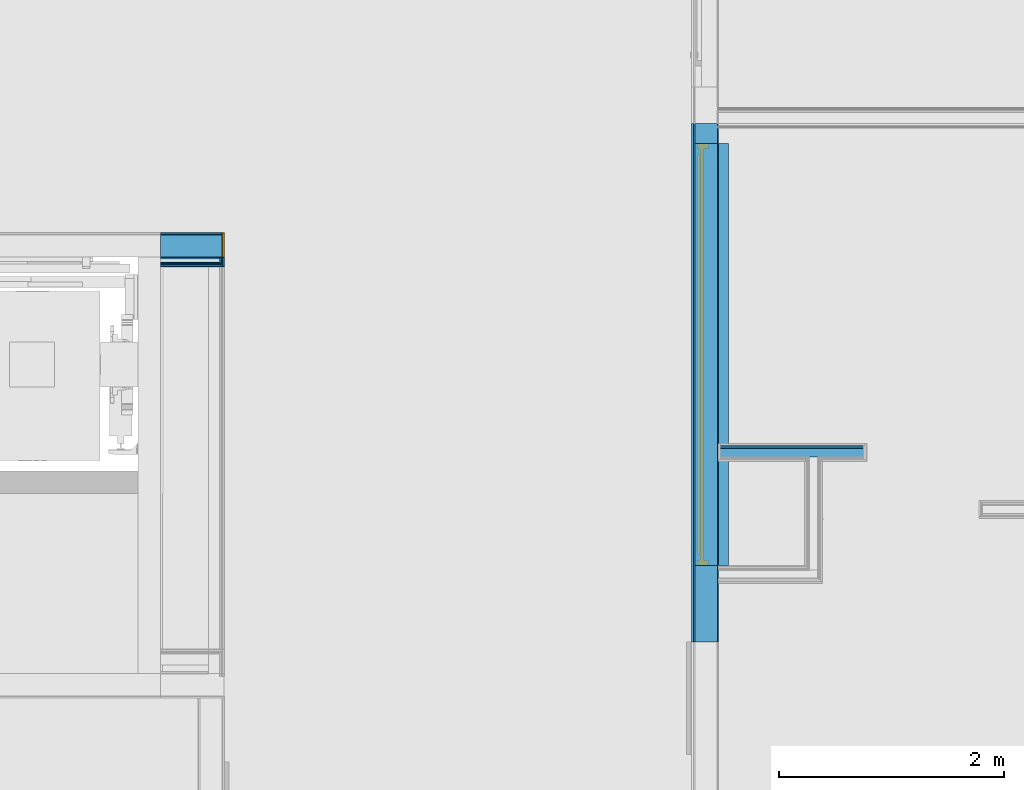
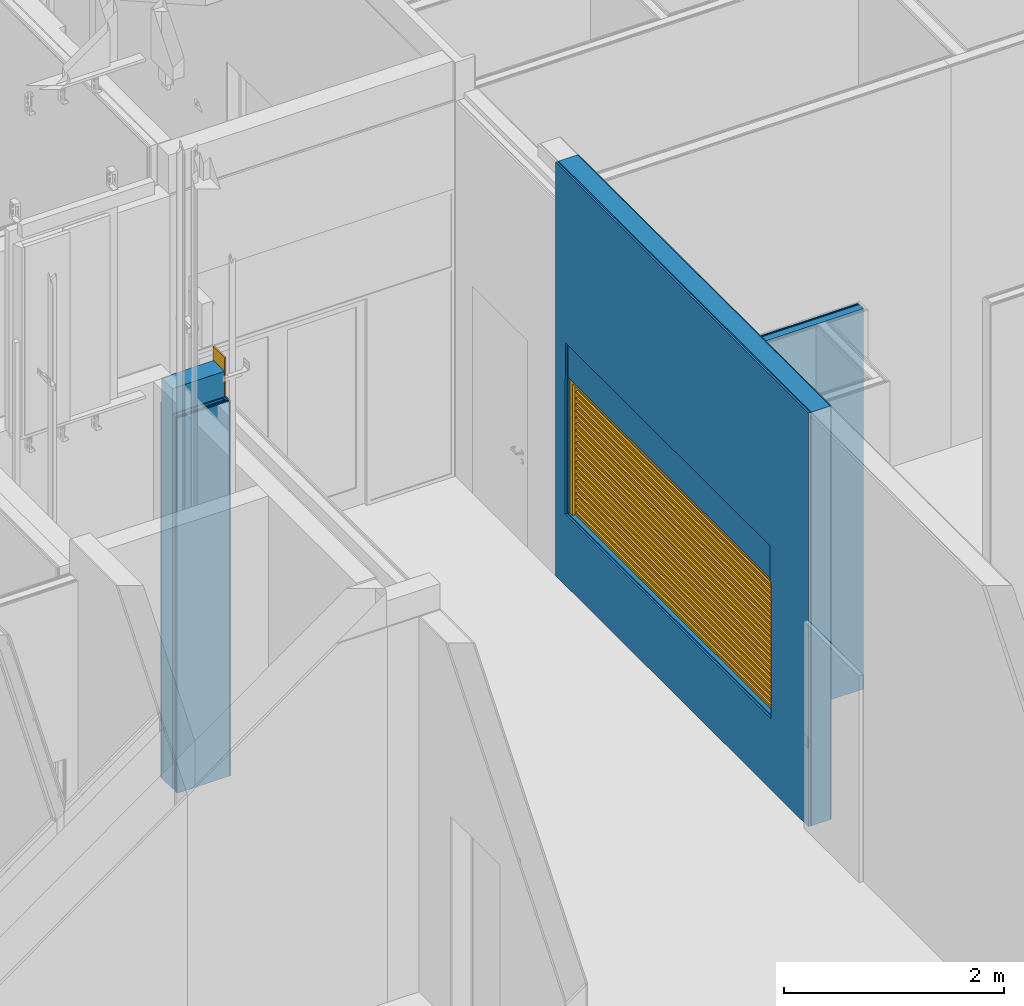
# One storey, part 186 of 260: 16 building element parts, 1 covering, 1 discrete accessory, 1 window, 5 openings, 5 elements without a shape of their own.
"""IFC2X3 building model written with IfcOpenShell, lengths in millimetres."""

from ifc_helpers import new_model, entity, si_unit, converted_unit, derived_unit, money_unit, direction, frame, origin_with_axes, place, context, subcontext, project, spatial, faceted_brep, material, type_object, element, fill, aggregate, save


model = new_model("IFC2X3")

# Units and contexts
model_context = context("Model", 3, precision=0.01, world=origin_with_axes(), true_north=direction((0.0, 1.0)))
body_context = subcontext(model_context, "Body", "Model", "MODEL_VIEW")
ifc_project = project(units=[si_unit("LENGTHUNIT", "METRE", prefix="MILLI"), si_unit("AREAUNIT", "SQUARE_METRE"), si_unit("VOLUMEUNIT", "CUBIC_METRE"), converted_unit("PLANEANGLEUNIT", "DEGREE", entity("IfcPlaneAngleMeasure", 0.0174532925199), si_unit("PLANEANGLEUNIT", "RADIAN"), dimensions=[0, 0, 0, 0, 0, 0, 0]), money_unit("EUR"), converted_unit("TIMEUNIT", "Year", entity("IfcTimeMeasure", 31556926.0), si_unit("TIMEUNIT", "SECOND"), dimensions=[0, 0, 1, 0, 0, 0, 0]), si_unit("MASSUNIT", "GRAM", prefix="KILO"), si_unit("THERMODYNAMICTEMPERATUREUNIT", "DEGREE_CELSIUS"), si_unit("LUMINOUSINTENSITYUNIT", "LUMEN"), si_unit("ENERGYUNIT", "JOULE", prefix="MEGA"), derived_unit("THERMALCONDUCTANCEUNIT", [(si_unit("POWERUNIT", "WATT"), 1), (si_unit("LENGTHUNIT", "METRE"), -1), (si_unit("THERMODYNAMICTEMPERATUREUNIT", "KELVIN"), -1)]), derived_unit("SPECIFICHEATCAPACITYUNIT", [(si_unit("ENERGYUNIT", "JOULE"), 1), (si_unit("MASSUNIT", "GRAM", prefix="KILO"), -1), (si_unit("THERMODYNAMICTEMPERATUREUNIT", "KELVIN"), -1)]), derived_unit("MASSDENSITYUNIT", [(si_unit("MASSUNIT", "GRAM", prefix="KILO"), 1), (si_unit("VOLUMEUNIT", "CUBIC_METRE"), -1)])], contexts=[model_context])

# Site, building, storey
site_placement = place(None, origin_with_axes())
site = spatial("IfcSite", under=ifc_project, at=site_placement, Name="Kolde pst 67a", CompositionType="ELEMENT")
building_placement = place(site_placement, origin_with_axes())
building = spatial("IfcBuilding", under=site, at=building_placement, Name="Riigigümnaasium", CompositionType="ELEMENT")
storey_placement = place(building_placement, origin_with_axes())
storey = spatial("IfcBuildingStorey", under=building, at=storey_placement, Name="1. korrus", CompositionType="ELEMENT", Elevation=0.0)

# Window
window_style = type_object("IfcWindowStyle", Name="Vertical Sliding Garage Door 25", ConstructionType="NOTDEFINED", OperationType="NOTDEFINED", ParameterTakesPrecedence=False, Sizeable=False)
wall_5_placement = place(storey_placement, frame((52829.9941222, 50755.0003787, 0.0), z_axis=(0.0, 0.0, 1.0), x_axis=(0.0, -1.0, 0.0)))
opening_5_placement = place(wall_5_placement, frame((2049.89598851, 0.0, 790.0), z_axis=(0.0, 0.0, 1.0), x_axis=(1.0, 0.0, 0.0)))
window_placement = place(opening_5_placement, frame((1875.0, 0.0, 0.0), z_axis=(0.0, 0.0, 1.0), x_axis=(-1.0, 0.0, 0.0)))
window = element("IfcWindow", 1, at=window_placement, inside=storey, type_object=window_style, Name="Nõudetagastus ava kardin", ObjectType="WINDOW", OverallHeight=1510.0, OverallWidth=3750.0, context=body_context, shape_type="Brep", body=[
    faceted_brep([(3750.0, 190.0, 0.0), (3750.0, 90.0, 0.0), (3700.0, 90.0, 0.0), (3700.0, 190.0, 0.0), (3750.0, 190.0, 1460.0), (3750.0, 90.0, 1460.0), (3700.0, 90.0, 1460.0), (3700.0, 190.0, 1460.0)], [[[0, 1, 2, 3]], [[4, 5, 1, 0]], [[1, 5, 6, 2]], [[3, 2, 6, 7]], [[0, 3, 7, 4]], [[7, 6, 5, 4]]]),
    faceted_brep([(0.0, 190.0, 0.0), (0.0, 90.0, 0.0), (0.0, 90.0, 1460.0), (0.0, 190.0, 1460.0), (50.0, 190.0, 0.0), (50.0, 90.0, 0.0), (50.0, 90.0, 1460.0), (50.0, 190.0, 1460.0)], [[[0, 1, 2, 3]], [[4, 5, 1, 0]], [[1, 5, 6, 2]], [[3, 2, 6, 7]], [[0, 3, 7, 4]], [[7, 6, 5, 4]]]),
    faceted_brep([(3750.0, 190.0, 1510.0), (3750.0, 90.0, 1510.0), (3750.0, 90.0, 1460.0), (3750.0, 190.0, 1460.0), (0.0, 190.0, 1510.0), (0.0, 90.0, 1510.0), (0.0, 90.0, 1460.0), (50.0, 90.0, 1460.0), (3700.0, 90.0, 1460.0), (3700.0, 190.0, 1460.0), (50.0, 190.0, 1460.0), (0.0, 190.0, 1460.0)], [[[0, 1, 2, 3]], [[4, 5, 1, 0]], [[1, 5, 6, 7, 8, 2]], [[3, 2, 8, 9]], [[0, 3, 9, 10, 11, 4]], [[11, 6, 5, 4]], [[10, 7, 6, 11]], [[9, 8, 7, 10]]]),
    faceted_brep([(50.0, 134.5, 0.0), (50.0, 164.5, 0.0), (3700.0, 164.5, 0.0), (3700.0, 134.5, 0.0), (50.0, 134.5, 1460.0), (50.0, 164.5, 1460.0), (3700.0, 164.5, 1460.0), (3700.0, 134.5, 1460.0)], [[[0, 1, 2, 3]], [[4, 5, 1, 0]], [[1, 5, 6, 2]], [[3, 2, 6, 7]], [[0, 3, 7, 4]], [[7, 6, 5, 4]]]),
    faceted_brep([(3650.0, 164.5, 50.0), (3650.0, 164.5, 70.5), (100.0, 164.5, 70.5), (100.0, 164.5, 50.0), (3650.0, 184.5, 50.0), (3650.0, 184.5, 70.5), (100.0, 184.5, 70.5), (100.0, 184.5, 50.0)], [[[0, 1, 2, 3]], [[0, 4, 5, 1]], [[1, 5, 6, 2]], [[2, 6, 7, 3]], [[3, 7, 4, 0]], [[7, 6, 5, 4]]]),
    faceted_brep([(3650.0, 164.5, 120.5), (3650.0, 164.5, 141.0), (100.0, 164.5, 141.0), (100.0, 164.5, 120.5), (3650.0, 184.5, 120.5), (3650.0, 184.5, 141.0), (100.0, 184.5, 141.0), (100.0, 184.5, 120.5)], [[[0, 1, 2, 3]], [[0, 4, 5, 1]], [[1, 5, 6, 2]], [[2, 6, 7, 3]], [[3, 7, 4, 0]], [[7, 6, 5, 4]]]),
    faceted_brep([(3650.0, 164.5, 191.0), (3650.0, 164.5, 211.5), (100.0, 164.5, 211.5), (100.0, 164.5, 191.0), (3650.0, 184.5, 191.0), (3650.0, 184.5, 211.5), (100.0, 184.5, 211.5), (100.0, 184.5, 191.0)], [[[0, 1, 2, 3]], [[0, 4, 5, 1]], [[1, 5, 6, 2]], [[2, 6, 7, 3]], [[3, 7, 4, 0]], [[7, 6, 5, 4]]]),
    faceted_brep([(3650.0, 164.5, 261.5), (3650.0, 164.5, 282.0), (100.0, 164.5, 282.0), (100.0, 164.5, 261.5), (3650.0, 184.5, 261.5), (3650.0, 184.5, 282.0), (100.0, 184.5, 282.0), (100.0, 184.5, 261.5)], [[[0, 1, 2, 3]], [[0, 4, 5, 1]], [[1, 5, 6, 2]], [[2, 6, 7, 3]], [[3, 7, 4, 0]], [[7, 6, 5, 4]]]),
    faceted_brep([(3650.0, 164.5, 332.0), (3650.0, 164.5, 352.5), (100.0, 164.5, 352.5), (100.0, 164.5, 332.0), (3650.0, 184.5, 332.0), (3650.0, 184.5, 352.5), (100.0, 184.5, 352.5), (100.0, 184.5, 332.0)], [[[0, 1, 2, 3]], [[0, 4, 5, 1]], [[1, 5, 6, 2]], [[2, 6, 7, 3]], [[3, 7, 4, 0]], [[7, 6, 5, 4]]]),
    faceted_brep([(3650.0, 164.5, 402.5), (3650.0, 164.5, 423.0), (100.0, 164.5, 423.0), (100.0, 164.5, 402.5), (3650.0, 184.5, 402.5), (3650.0, 184.5, 423.0), (100.0, 184.5, 423.0), (100.0, 184.5, 402.5)], [[[0, 1, 2, 3]], [[0, 4, 5, 1]], [[1, 5, 6, 2]], [[2, 6, 7, 3]], [[3, 7, 4, 0]], [[7, 6, 5, 4]]]),
    faceted_brep([(3650.0, 164.5, 473.0), (3650.0, 164.5, 493.5), (100.0, 164.5, 493.5), (100.0, 164.5, 473.0), (3650.0, 184.5, 473.0), (3650.0, 184.5, 493.5), (100.0, 184.5, 493.5), (100.0, 184.5, 473.0)], [[[0, 1, 2, 3]], [[0, 4, 5, 1]], [[1, 5, 6, 2]], [[2, 6, 7, 3]], [[3, 7, 4, 0]], [[7, 6, 5, 4]]]),
    faceted_brep([(3650.0, 164.5, 543.5), (3650.0, 164.5, 564.0), (100.0, 164.5, 564.0), (100.0, 164.5, 543.5), (3650.0, 184.5, 543.5), (3650.0, 184.5, 564.0), (100.0, 184.5, 564.0), (100.0, 184.5, 543.5)], [[[0, 1, 2, 3]], [[0, 4, 5, 1]], [[1, 5, 6, 2]], [[2, 6, 7, 3]], [[3, 7, 4, 0]], [[7, 6, 5, 4]]]),
    faceted_brep([(3650.0, 164.5, 614.0), (3650.0, 164.5, 634.5), (100.0, 164.5, 634.5), (100.0, 164.5, 614.0), (3650.0, 184.5, 614.0), (3650.0, 184.5, 634.5), (100.0, 184.5, 634.5), (100.0, 184.5, 614.0)], [[[0, 1, 2, 3]], [[0, 4, 5, 1]], [[1, 5, 6, 2]], [[2, 6, 7, 3]], [[3, 7, 4, 0]], [[7, 6, 5, 4]]]),
    faceted_brep([(3650.0, 164.5, 684.5), (3650.0, 164.5, 705.0), (100.0, 164.5, 705.0), (100.0, 164.5, 684.5), (3650.0, 184.5, 684.5), (3650.0, 184.5, 705.0), (100.0, 184.5, 705.0), (100.0, 184.5, 684.5)], [[[0, 1, 2, 3]], [[0, 4, 5, 1]], [[1, 5, 6, 2]], [[2, 6, 7, 3]], [[3, 7, 4, 0]], [[7, 6, 5, 4]]]),
    faceted_brep([(3650.0, 164.5, 755.0), (3650.0, 164.5, 775.5), (100.0, 164.5, 775.5), (100.0, 164.5, 755.0), (3650.0, 184.5, 755.0), (3650.0, 184.5, 775.5), (100.0, 184.5, 775.5), (100.0, 184.5, 755.0)], [[[0, 1, 2, 3]], [[0, 4, 5, 1]], [[1, 5, 6, 2]], [[2, 6, 7, 3]], [[3, 7, 4, 0]], [[7, 6, 5, 4]]]),
    faceted_brep([(3650.0, 164.5, 825.5), (3650.0, 164.5, 846.0), (100.0, 164.5, 846.0), (100.0, 164.5, 825.5), (3650.0, 184.5, 825.5), (3650.0, 184.5, 846.0), (100.0, 184.5, 846.0), (100.0, 184.5, 825.5)], [[[0, 1, 2, 3]], [[0, 4, 5, 1]], [[1, 5, 6, 2]], [[2, 6, 7, 3]], [[3, 7, 4, 0]], [[7, 6, 5, 4]]]),
    faceted_brep([(3650.0, 164.5, 896.0), (3650.0, 164.5, 916.5), (100.0, 164.5, 916.5), (100.0, 164.5, 896.0), (3650.0, 184.5, 896.0), (3650.0, 184.5, 916.5), (100.0, 184.5, 916.5), (100.0, 184.5, 896.0)], [[[0, 1, 2, 3]], [[0, 4, 5, 1]], [[1, 5, 6, 2]], [[2, 6, 7, 3]], [[3, 7, 4, 0]], [[7, 6, 5, 4]]]),
    faceted_brep([(3650.0, 164.5, 966.5), (3650.0, 164.5, 987.0), (100.0, 164.5, 987.0), (100.0, 164.5, 966.5), (3650.0, 184.5, 966.5), (3650.0, 184.5, 987.0), (100.0, 184.5, 987.0), (100.0, 184.5, 966.5)], [[[0, 1, 2, 3]], [[0, 4, 5, 1]], [[1, 5, 6, 2]], [[2, 6, 7, 3]], [[3, 7, 4, 0]], [[7, 6, 5, 4]]]),
    faceted_brep([(3650.0, 164.5, 1037.0), (3650.0, 164.5, 1057.5), (100.0, 164.5, 1057.5), (100.0, 164.5, 1037.0), (3650.0, 184.5, 1037.0), (3650.0, 184.5, 1057.5), (100.0, 184.5, 1057.5), (100.0, 184.5, 1037.0)], [[[0, 1, 2, 3]], [[0, 4, 5, 1]], [[1, 5, 6, 2]], [[2, 6, 7, 3]], [[3, 7, 4, 0]], [[7, 6, 5, 4]]]),
    faceted_brep([(3650.0, 164.5, 1107.5), (3650.0, 164.5, 1128.0), (100.0, 164.5, 1128.0), (100.0, 164.5, 1107.5), (3650.0, 184.5, 1107.5), (3650.0, 184.5, 1128.0), (100.0, 184.5, 1128.0), (100.0, 184.5, 1107.5)], [[[0, 1, 2, 3]], [[0, 4, 5, 1]], [[1, 5, 6, 2]], [[2, 6, 7, 3]], [[3, 7, 4, 0]], [[7, 6, 5, 4]]]),
    faceted_brep([(3650.0, 164.5, 1178.0), (3650.0, 164.5, 1198.5), (100.0, 164.5, 1198.5), (100.0, 164.5, 1178.0), (3650.0, 184.5, 1178.0), (3650.0, 184.5, 1198.5), (100.0, 184.5, 1198.5), (100.0, 184.5, 1178.0)], [[[0, 1, 2, 3]], [[0, 4, 5, 1]], [[1, 5, 6, 2]], [[2, 6, 7, 3]], [[3, 7, 4, 0]], [[7, 6, 5, 4]]]),
    faceted_brep([(3650.0, 164.5, 1248.5), (3650.0, 164.5, 1269.0), (100.0, 164.5, 1269.0), (100.0, 164.5, 1248.5), (3650.0, 184.5, 1248.5), (3650.0, 184.5, 1269.0), (100.0, 184.5, 1269.0), (100.0, 184.5, 1248.5)], [[[0, 1, 2, 3]], [[0, 4, 5, 1]], [[1, 5, 6, 2]], [[2, 6, 7, 3]], [[3, 7, 4, 0]], [[7, 6, 5, 4]]]),
    faceted_brep([(3650.0, 164.5, 1319.0), (3650.0, 164.5, 1339.5), (100.0, 164.5, 1339.5), (100.0, 164.5, 1319.0), (3650.0, 184.5, 1319.0), (3650.0, 184.5, 1339.5), (100.0, 184.5, 1339.5), (100.0, 184.5, 1319.0)], [[[0, 1, 2, 3]], [[0, 4, 5, 1]], [[1, 5, 6, 2]], [[2, 6, 7, 3]], [[3, 7, 4, 0]], [[7, 6, 5, 4]]]),
    faceted_brep([(3650.0, 164.5, 1389.5), (3650.0, 164.5, 1410.0), (100.0, 164.5, 1410.0), (100.0, 164.5, 1389.5), (3650.0, 184.5, 1389.5), (3650.0, 184.5, 1410.0), (100.0, 184.5, 1410.0), (100.0, 184.5, 1389.5)], [[[0, 1, 2, 3]], [[0, 4, 5, 1]], [[1, 5, 6, 2]], [[2, 6, 7, 3]], [[3, 7, 4, 0]], [[7, 6, 5, 4]]]),
])

# Covering
ifc_material_1 = material(Name="_VIIMISTLUSKIHT - viimistlus vastavalt SA osale")
covering_type = type_object("IfcCoveringType", Name="Returned End 25", PredefinedType="NOTDEFINED")
wall_1_placement = place(storey_placement, frame((47874.9854607, 49769.9999599, 0.0), z_axis=(0.0, 0.0, 1.0), x_axis=(1.0, 0.0, 0.0)))
opening_1_placement = place(wall_1_placement, frame((565.0, 0.0, 0.0), z_axis=(0.0, 0.0, 1.0), x_axis=(1.0, 0.0, 0.0)))
covering_placement = place(opening_1_placement, frame((7.5, 0.0, 0.0), z_axis=(0.0, 0.0, 1.0), x_axis=(-1.0, 0.0, 0.0)))
covering = element("IfcCovering", 2, at=covering_placement, inside=storey, type_object=covering_type, material=ifc_material_1, Name="Pale", PredefinedType="NOTDEFINED", context=body_context, shape_type="Brep", body=[
    faceted_brep([(7.5, -15.0, 0.0), (22.5, -15.0, 0.0), (22.5, -15.0, 4600.0), (7.5, -15.0, 4600.0), (7.5, 200.0, 0.0), (22.5, 200.0, 0.0), (22.5, 200.0, 4600.0), (7.5, 200.0, 4600.0)], [[[0, 1, 2, 3]], [[4, 5, 1, 0]], [[5, 6, 2, 1]], [[6, 7, 3, 2]], [[7, 4, 0, 3]], [[4, 7, 6, 5]]]),
])

# Discrete accessory
ifc_material_2 = material(Name="_METALL - kuumtsingitud teras")
discrete_accessory_type = type_object("IfcDiscreteAccessoryType", Name="_METALL - kuumtsingitud teras 300 x 400")
discrete_accessory_placement = place(storey_placement, frame((52619.9940909, 50580.4912285, 2300.0), z_axis=(0.0, 0.0, 1.0), x_axis=(-1.0, 0.0, 0.0)))
element("IfcDiscreteAccessory", 3, at=discrete_accessory_placement, inside=storey, type_object=discrete_accessory_type, material=ifc_material_2, Name="Turvakardina korpus Vastavalt Sa osale", context=body_context, shape_type="Brep", body=[
    faceted_brep([(0.0, 0.0, 400.0), (0.0, 3750.0, 400.0), (-300.009731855, 3750.0, 400.0), (-300.009731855, 0.0, 400.0), (0.0, 0.0, 0.0), (0.0, 3750.0, 0.0), (-300.009731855, 3750.0, 0.0), (-300.009731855, 0.0, 0.0)], [[[0, 1, 2, 3]], [[4, 5, 1, 0]], [[2, 1, 5, 6]], [[3, 2, 6, 7]], [[4, 0, 3, 7]], [[7, 6, 5, 4]]]),
])

# Wall, opening
wall_type_1 = type_object("IfcWallType", Name="SS-RB-20/2_+2 plaat 230", PredefinedType="NOTDEFINED")
wall_1 = element("IfcWall", 4, at=wall_1_placement, inside=storey, type_object=wall_type_1, Name="Sisesein")
opening_1 = element("IfcOpeningElement", 5, at=opening_1_placement, cuts=wall_1, Name="Pale", context=body_context, shape_type="Brep", body=[
    faceted_brep([(-15.0, -200.0, 0.0), (0.0, -200.0, 0.0), (0.0, -200.0, 4600.0), (-15.0, -200.0, 4600.0), (-15.0, 15.0, 0.0), (0.0, 15.0, 0.0), (0.0, 15.0, 4600.0), (-15.0, 15.0, 4600.0)], [[[0, 1, 2, 3]], [[0, 4, 5, 1]], [[1, 5, 6, 2]], [[3, 2, 6, 7]], [[4, 0, 3, 7]], [[5, 4, 7, 6]]]),
])

fill(opening_1, covering)

# Building element part
building_element_part_1_placement = place(wall_1_placement, origin_with_axes())
building_element_part_1 = element("IfcBuildingElementPart", 6, at=building_element_part_1_placement, material=ifc_material_1, Name="_VIIMISTLUSKIHT - viimistlus vastavalt SA osale", context=body_context, shape_type="Brep", body=[
    faceted_brep([(550.0, 0.0, 4170.0), (550.0, 15.0, 4170.0), (0.0, 15.0, 4170.0), (0.0, 0.0, 4170.0), (550.0, 15.0, 0.0), (550.0, 0.0, 0.0), (0.0, 15.0, 0.0), (0.0, 0.0, 0.0)], [[[0, 1, 2, 3]], [[4, 1, 0, 5]], [[1, 4, 6, 2]], [[2, 6, 7, 3]], [[5, 0, 3, 7]], [[4, 5, 7, 6]]]),
])

ifc_material_3 = material(Name="_KANDETARIND - monteeritav raudbetoon vastavalt EK osale")
building_element_part_2_placement = place(wall_1_placement, origin_with_axes())
building_element_part_2 = element("IfcBuildingElementPart", 7, at=building_element_part_2_placement, material=ifc_material_3, Name="_KANDETARIND - monteeritav raudbetoon vastavalt EK osale", context=body_context, shape_type="Brep", body=[
    faceted_brep([(550.0, -200.0, 4450.0), (550.0, 0.0, 4450.0), (0.0, 0.0, 4450.0), (0.0, -200.0, 4450.0), (550.0, 0.0, 0.0), (550.0, -200.0, 0.0), (0.0, 0.0, 0.0), (0.0, -200.0, 0.0)], [[[0, 1, 2, 3]], [[4, 1, 0, 5]], [[1, 4, 6, 2]], [[2, 6, 7, 3]], [[5, 0, 3, 7]], [[4, 5, 7, 6]]]),
])

building_element_part_3_placement = place(wall_1_placement, origin_with_axes())
building_element_part_3 = element("IfcBuildingElementPart", 8, at=building_element_part_3_placement, material=ifc_material_1, Name="_VIIMISTLUSKIHT - viimistlus vastavalt SA osale", context=body_context, shape_type="Brep", body=[
    faceted_brep([(0.0, -200.0, 4170.0), (565.0, -200.0, 4170.0), (565.0, -200.0, 0.0), (0.0, -200.0, 0.0), (565.0, -215.0, 4170.0), (0.0, -215.0, 4170.0), (565.0, -215.0, 0.0), (0.0, -215.0, 0.0)], [[[0, 1, 2, 3]], [[4, 1, 0, 5]], [[1, 4, 6, 2]], [[3, 2, 6, 7]], [[5, 0, 3, 7]], [[4, 5, 7, 6]]]),
])

aggregate(wall_1, [building_element_part_1, building_element_part_2, building_element_part_3])

# Wall, openings, building element parts
wall_type_2 = type_object("IfcWallType", Name="SS-MK-7,5/1_plaaditud 155", PredefinedType="NOTDEFINED")
wall_2_placement = place(storey_placement, frame((52829.9941222, 47910.1043901, 0.0), z_axis=(0.0, 0.0, 1.0), x_axis=(1.0, 0.0, 0.0)))
wall_2 = element("IfcWall", 9, at=wall_2_placement, inside=storey, type_object=wall_type_2, Name="Sisesein")
opening_2_placement = place(wall_2_placement, origin_with_axes())
element("IfcOpeningElement", 10, at=opening_2_placement, cuts=wall_2, Name="Pale", context=body_context, shape_type="Brep", body=[
    faceted_brep([(15.0, 0.0, 0.0), (0.0, 0.0, 0.0), (0.0, 0.0, 4230.00000998), (15.0, 0.0, 4230.00000998), (15.0, -140.0, 0.0), (0.0, -140.0, 0.0), (0.0, -140.0, 4230.00000998), (15.0, -140.0, 4230.00000998)], [[[0, 1, 2, 3]], [[0, 4, 5, 1]], [[1, 5, 6, 2]], [[3, 2, 6, 7]], [[4, 0, 3, 7]], [[5, 4, 7, 6]]]),
])
opening_3_placement = place(wall_2_placement, frame((1315.65217575, 0.0, 0.0), z_axis=(0.0, 0.0, 1.0), x_axis=(1.0, 0.0, 0.0)))
element("IfcOpeningElement", 11, at=opening_3_placement, cuts=wall_2, Name="Pale", context=body_context, shape_type="Brep", body=[
    faceted_brep([(-15.0, -140.0, 0.0), (0.0, -140.0, 0.0), (0.0, -140.0, 4230.00000998), (-15.0, -140.0, 4230.00000998), (-15.0, 0.0, 0.0), (0.0, 0.0, 0.0), (0.0, 0.0, 4230.00000998), (-15.0, 0.0, 4230.00000998)], [[[0, 1, 2, 3]], [[0, 4, 5, 1]], [[1, 5, 6, 2]], [[3, 2, 6, 7]], [[4, 0, 3, 7]], [[5, 4, 7, 6]]]),
    faceted_brep([(-27.5, -140.0, 0.0), (-15.0, -140.0, 0.0), (-15.0, -140.0, 4230.00000998), (-27.5, -140.0, 4230.00000998), (-27.5, -15.0, 0.0), (-15.0, -15.0, 0.0), (-15.0, -15.0, 4230.00000998), (-27.5, -15.0, 4230.00000998)], [[[0, 1, 2, 3]], [[0, 4, 5, 1]], [[1, 5, 6, 2]], [[3, 2, 6, 7]], [[4, 0, 3, 7]], [[5, 4, 7, 6]]]),
])
ifc_material_4 = material(Name="_PLAATMATERJAL - kipsplaat veekindel")
building_element_part_4_placement = place(wall_2_placement, origin_with_axes())
building_element_part_4 = element("IfcBuildingElementPart", 12, at=building_element_part_4_placement, material=ifc_material_4, Name="_PLAATMATERJAL - kipsplaat veekindel", context=body_context, shape_type="Brep", body=[
    faceted_brep([(1288.15217575, -27.5, 4230.00000998), (1288.15217575, -15.0, 4230.00000998), (15.0, -15.0, 4230.00000998), (15.0, -27.5, 4230.00000998), (1288.15217575, -15.0, 0.0), (1288.15217575, -27.5, 0.0), (15.0, -15.0, 0.0), (15.0, -15.0, 2300.0), (90.0097005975, -15.0, 2300.0), (90.0097005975, -15.0, 2700.0), (15.0, -15.0, 2700.0), (15.0, -27.5, 2700.0), (90.0097005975, -27.5, 2700.0), (90.0097005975, -27.5, 2300.0), (15.0, -27.5, 2300.0), (15.0, -27.5, 0.0)], [[[0, 1, 2, 3]], [[4, 1, 0, 5]], [[1, 4, 6, 7, 8, 9, 10, 2]], [[10, 11, 3, 2]], [[5, 0, 3, 11, 12, 13, 14, 15]], [[4, 5, 15, 6]], [[6, 15, 14, 7]], [[13, 8, 7, 14]], [[12, 9, 8, 13]], [[9, 12, 11, 10]]]),
])
building_element_part_5_placement = place(wall_2_placement, origin_with_axes())
building_element_part_5 = element("IfcBuildingElementPart", 13, at=building_element_part_5_placement, material=ifc_material_4, Name="_PLAATMATERJAL - kipsplaat veekindel", context=body_context, shape_type="Brep", body=[
    faceted_brep([(1288.15217575, -40.0, 4230.00000998), (1288.15217575, -27.5, 4230.00000998), (15.0, -27.5, 4230.00000998), (15.0, -40.0, 4230.00000998), (1288.15217575, -27.5, 0.0), (1288.15217575, -40.0, 0.0), (15.0, -27.5, 0.0), (15.0, -27.5, 2300.0), (90.0097005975, -27.5, 2300.0), (90.0097005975, -27.5, 2700.0), (15.0, -27.5, 2700.0), (15.0, -40.0, 2700.0), (90.0097005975, -40.0, 2700.0), (90.0097005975, -40.0, 2300.0), (15.0, -40.0, 2300.0), (15.0, -40.0, 0.0)], [[[0, 1, 2, 3]], [[4, 1, 0, 5]], [[1, 4, 6, 7, 8, 9, 10, 2]], [[10, 11, 3, 2]], [[5, 0, 3, 11, 12, 13, 14, 15]], [[4, 5, 15, 6]], [[6, 15, 14, 7]], [[13, 8, 7, 14]], [[12, 9, 8, 13]], [[9, 12, 11, 10]]]),
])
ifc_material_5 = material(Name="_KARKASS - metallkarkass CW 75/50, mineraalvill karkassi vahel")
building_element_part_6_placement = place(wall_2_placement, origin_with_axes())
building_element_part_6 = element("IfcBuildingElementPart", 14, at=building_element_part_6_placement, material=ifc_material_5, Name="_KARKASS - metallkarkass CW 75/50, mineraalvill karkassi vahel", context=body_context, shape_type="Brep", body=[
    faceted_brep([(1288.15217575, -115.0, 4230.00000998), (1288.15217575, -40.0, 4230.00000998), (15.0, -40.0, 4230.00000998), (15.0, -115.0, 4230.00000998), (1288.15217575, -40.0, 0.0), (1288.15217575, -115.0, 0.0), (15.0, -40.0, 0.0), (15.0, -40.0, 2300.0), (90.0097005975, -40.0, 2300.0), (90.0097005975, -40.0, 2700.0), (15.0, -40.0, 2700.0), (15.0, -115.0, 2700.0), (90.0097005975, -115.0, 2700.0), (90.0097005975, -115.0, 2300.0), (15.0, -115.0, 2300.0), (15.0, -115.0, 0.0)], [[[0, 1, 2, 3]], [[4, 1, 0, 5]], [[1, 4, 6, 7, 8, 9, 10, 2]], [[10, 11, 3, 2]], [[5, 0, 3, 11, 12, 13, 14, 15]], [[4, 5, 15, 6]], [[6, 15, 14, 7]], [[13, 8, 7, 14]], [[12, 9, 8, 13]], [[9, 12, 11, 10]]]),
])
aggregate(wall_2, [building_element_part_4, building_element_part_5, building_element_part_6])

# Wall, building element parts
wall_type_3 = type_object("IfcWallType", Name="SS-MK-10/11_kollektorvarisein plaaditud 40", PredefinedType="NOTDEFINED")
wall_3_placement = place(storey_placement, frame((48439.9854607, 49569.9999599, 0.0), z_axis=(0.0, 0.0, 1.0), x_axis=(0.0, -1.0, 0.0)))
wall_3 = element("IfcWall", 15, at=wall_3_placement, inside=storey, type_object=wall_type_3, Name="Sisesein")
building_element_part_7_placement = place(wall_3_placement, origin_with_axes())
building_element_part_7 = element("IfcBuildingElementPart", 16, at=building_element_part_7_placement, material=ifc_material_1, Name="_VIIMISTLUSKIHT - viimistlus vastavalt SA osale", context=body_context, shape_type="Brep", body=[
    faceted_brep([(0.0, -15.0, 4170.0), (0.0, 0.0, 4170.0), (0.0, 0.0, 0.0), (0.0, -15.0, 0.0), (85.0000001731, -1.38801539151e-05, 4170.0), (85.0000000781, -14.9999981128, 4170.0), (85.0000149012, -1.38801539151e-05, 2300.0), (85.0000149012, 0.0, 0.0), (85.0000149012, -15.0, 0.0)], [[[0, 1, 2, 3]], [[4, 1, 0, 5]], [[1, 4, 6, 7, 2]], [[3, 2, 7, 8]], [[5, 0, 3, 8]], [[4, 5, 8, 7, 6]]]),
])
building_element_part_8_placement = place(wall_3_placement, origin_with_axes())
building_element_part_8 = element("IfcBuildingElementPart", 17, at=building_element_part_8_placement, material=ifc_material_4, Name="_PLAATMATERJAL - kipsplaat veekindel", context=body_context, shape_type="Brep", body=[
    faceted_brep([(0.0, -27.5, 4170.0), (0.0, -15.0, 4170.0), (0.0, -15.0, 0.0), (0.0, -27.5, 0.0), (70.0, -14.9999992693, 4170.0), (70.0, -27.5, 4170.0), (70.0, -15.0, 0.0), (70.0, -27.5, 0.0)], [[[0, 1, 2, 3]], [[4, 1, 0, 5]], [[1, 4, 6, 2]], [[2, 6, 7, 3]], [[5, 0, 3, 7]], [[4, 5, 7, 6]]]),
])
building_element_part_9_placement = place(wall_3_placement, origin_with_axes())
building_element_part_9 = element("IfcBuildingElementPart", 18, at=building_element_part_9_placement, material=ifc_material_4, Name="_PLAATMATERJAL - kipsplaat veekindel", context=body_context, shape_type="Brep", body=[
    faceted_brep([(0.0, -40.0, 4170.0), (0.0, -27.5, 4170.0), (0.0, -27.5, 0.0), (0.0, -40.0, 0.0), (57.5, -27.5, 4170.0), (57.5, -40.0, 4170.0), (57.5, -27.5, 0.0), (57.5, -40.0, 0.0)], [[[0, 1, 2, 3]], [[4, 1, 0, 5]], [[1, 4, 6, 2]], [[2, 6, 7, 3]], [[5, 0, 3, 7]], [[4, 5, 7, 6]]]),
])
aggregate(wall_3, [building_element_part_7, building_element_part_8, building_element_part_9])

wall_4_placement = place(storey_placement, frame((48439.9854607, 49484.9999599, 0.0), z_axis=(0.0, 0.0, 1.0), x_axis=(-1.0, 0.0, 0.0)))
wall_4 = element("IfcWall", 19, at=wall_4_placement, inside=storey, type_object=wall_type_3, Name="Sisesein")
building_element_part_10_placement = place(wall_4_placement, origin_with_axes())
building_element_part_10 = element("IfcBuildingElementPart", 20, at=building_element_part_10_placement, material=ifc_material_1, Name="_VIIMISTLUSKIHT - viimistlus vastavalt SA osale", context=body_context, shape_type="Brep", body=[
    faceted_brep([(565.0, -15.0, 4170.0), (14.9999992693, -15.0, 4170.0), (15.0, -15.0, 0.0), (565.0, -15.0, 0.0), (14.9999992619, 7.81099629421e-08, 4170.0), (565.0, 0.0, 4170.0), (14.9999989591, 6.72538646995e-06, 2300.0), (15.0, 1.49011754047e-05, 0.0), (565.0, 0.0, 0.0)], [[[0, 1, 2, 3]], [[4, 1, 0, 5]], [[1, 4, 6, 7, 2]], [[3, 2, 7, 8]], [[5, 0, 3, 8]], [[4, 5, 8, 7, 6]]]),
])
building_element_part_11_placement = place(wall_4_placement, origin_with_axes())
building_element_part_11 = element("IfcBuildingElementPart", 21, at=building_element_part_11_placement, material=ifc_material_4, Name="_PLAATMATERJAL - kipsplaat veekindel", context=body_context, shape_type="Brep", body=[
    faceted_brep([(565.0, -27.5, 4170.0), (27.5, -27.5, 4170.0), (27.5, -27.5, 0.0), (565.0, -27.5, 0.0), (27.5, -15.0, 4170.0), (565.0, -15.0, 4170.0), (27.5, -15.0, 0.0), (565.0, -15.0, 0.0)], [[[0, 1, 2, 3]], [[4, 1, 0, 5]], [[1, 4, 6, 2]], [[3, 2, 6, 7]], [[5, 0, 3, 7]], [[4, 5, 7, 6]]]),
])
building_element_part_12_placement = place(wall_4_placement, origin_with_axes())
building_element_part_12 = element("IfcBuildingElementPart", 22, at=building_element_part_12_placement, material=ifc_material_4, Name="_PLAATMATERJAL - kipsplaat veekindel", context=body_context, shape_type="Brep", body=[
    faceted_brep([(565.0, -40.0, 4170.0), (40.0, -40.0, 4170.0), (40.0, -40.0, 0.0), (565.0, -40.0, 0.0), (40.0, -27.5, 4170.0), (565.0, -27.5, 4170.0), (40.0, -27.5, 0.0), (565.0, -27.5, 0.0)], [[[0, 1, 2, 3]], [[4, 1, 0, 5]], [[1, 4, 6, 2]], [[3, 2, 6, 7]], [[5, 0, 3, 7]], [[4, 5, 7, 6]]]),
])
aggregate(wall_4, [building_element_part_10, building_element_part_11, building_element_part_12])

# Wall, openings
wall_type_4 = type_object("IfcWallType", Name="SS-RBM-20/1_+krohv+dold 240", PredefinedType="NOTDEFINED")
wall_5 = element("IfcWall", 23, at=wall_5_placement, inside=storey, type_object=wall_type_4, Name="Sisesein")
opening_4_placement = place(wall_5_placement, frame((2040.02520031, 0.0, 790.0), z_axis=(0.0, 0.0, 1.0), x_axis=(1.0, 0.0, 0.0)))
element("IfcOpeningElement", 24, at=opening_4_placement, cuts=wall_5, Name="Siseuks", context=body_context, shape_type="Brep", body=[
    faceted_brep([(1864.87078821, 240.0, 0.0), (1864.87078821, 240.0, 1910.0), (1864.87078821, -480.0, 1910.0), (1864.87078821, -480.0, 0.0), (-1864.87078821, 240.0, 0.0), (-1864.87078821, 240.0, 1910.0), (-1864.87078821, -480.0, 1910.0), (-1864.87078821, -480.0, 0.0)], [[[0, 1, 2, 3]], [[0, 4, 5, 1]], [[1, 5, 6, 2]], [[3, 2, 6, 7]], [[4, 0, 3, 7]], [[5, 4, 7, 6]]]),
])
opening_5 = element("IfcOpeningElement", 25, at=opening_5_placement, cuts=wall_5, Name="Nõudetagastus ava kardin", context=body_context, shape_type="Brep", body=[
    faceted_brep([(1875.0, -190.0, 1510.0), (1875.0, -190.0, 0.0), (1875.0, 240.0, 0.0), (1875.0, 240.0, 1510.0), (-1875.0, -190.0, 1510.0), (-1875.0, -190.0, 0.0), (-1875.0, 240.0, 0.0), (-1875.0, 240.0, 1510.0)], [[[0, 1, 2, 3]], [[0, 4, 5, 1]], [[1, 5, 6, 2]], [[3, 2, 6, 7]], [[4, 0, 3, 7]], [[5, 4, 7, 6]]]),
    faceted_brep([(1875.0, -190.0, 0.0), (1875.0, -190.0, 1510.0), (1875.0, -480.0, 1510.0), (1875.0, -480.0, 0.0), (-1875.0, -190.0, 0.0), (-1875.0, -190.0, 1510.0), (-1875.0, -480.0, 1510.0), (-1875.0, -480.0, 0.0)], [[[0, 1, 2, 3]], [[0, 4, 5, 1]], [[1, 5, 6, 2]], [[3, 2, 6, 7]], [[4, 0, 3, 7]], [[5, 4, 7, 6]]]),
    faceted_brep([(-1875.0, -95.0, 1510.0), (1875.0, -95.0, 1510.0), (1875.0, -140.0, 1510.0), (-1875.0, -140.0, 1510.0), (-1875.0, -95.0, 3020.00001118), (1875.0, -95.0, 3020.00001118), (1875.0, -140.0, 3020.00001118), (-1875.0, -140.0, 3020.00001118)], [[[0, 1, 2, 3]], [[0, 4, 5, 1]], [[1, 5, 6, 2]], [[3, 2, 6, 7]], [[4, 0, 3, 7]], [[5, 4, 7, 6]]]),
])

fill(opening_5, window)

# Building element part
building_element_part_13_placement = place(wall_5_placement, origin_with_axes())
building_element_part_13 = element("IfcBuildingElementPart", 26, at=building_element_part_13_placement, material=ifc_material_1, Name="_VIIMISTLUSKIHT - viimistlus vastavalt SA osale", context=body_context, shape_type="Brep", body=[
    faceted_brep([(0.0, 0.0, 0.0), (0.0, 0.0, 4600.0), (4605.00038723, 0.0, 4600.0), (4605.00038723, 0.0, 0.0), (174.895988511, 0.0, 790.0), (175.154412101, 0.0, 790.0), (3904.89598851, 0.0, 790.0), (3924.89598851, 0.0, 790.0), (3924.89598851, 0.0, 2300.0), (3904.89598851, 0.0, 2300.0), (3904.89598851, 0.0, 2700.0), (175.154412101, 0.0, 2700.0), (175.154412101, 0.0, 2300.0), (174.895988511, 0.0, 2300.0), (0.0, -10.0, 0.0), (0.0, -10.0, 4600.0), (4605.00038723, -10.0, 4600.0), (4605.00038723, -10.0, 0.0), (174.895988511, -10.0, 790.0), (175.154412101, -10.0, 790.0), (3904.89598851, -10.0, 790.0), (3924.89598851, -10.0, 790.0), (3924.89598851, -10.0, 2300.0), (3904.89598851, -10.0, 2300.0), (3904.89598851, -10.0, 2700.0), (175.154412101, -10.0, 2700.0), (175.154412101, -10.0, 2300.0), (174.895988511, -10.0, 2300.0)], [[[0, 1, 2, 3], [4, 5, 6, 7, 8, 9, 10, 11, 12, 13]], [[0, 14, 15, 1]], [[1, 15, 16, 2]], [[3, 2, 16, 17]], [[14, 0, 3, 17]], [[5, 4, 18, 19]], [[5, 19, 20, 6]], [[7, 6, 20, 21]], [[8, 7, 21, 22]], [[23, 9, 8, 22]], [[9, 23, 24, 10]], [[10, 24, 25, 11]], [[26, 12, 11, 25]], [[13, 12, 26, 27]], [[4, 13, 27, 18]], [[15, 14, 17, 16], [27, 26, 25, 24, 23, 22, 21, 20, 19, 18]]]),
])

ifc_material_6 = material(Name="_KANDETARIND - monoliitne raudbetoon vastavalt EK osale")
building_element_part_14_placement = place(wall_5_placement, origin_with_axes())
building_element_part_14 = element("IfcBuildingElementPart", 27, at=building_element_part_14_placement, material=ifc_material_6, Name="_KANDETARIND - monoliitne raudbetoon vastavalt EK osale", context=body_context, shape_type="Brep", body=[
    faceted_brep([(4605.00038723, -10.0, 4600.0), (4605.00038723, -10.0, 0.0), (0.0, -10.0, 0.0), (0.0, -10.0, 4600.0), (174.895988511, -10.0, 790.0), (175.154412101, -10.0, 790.0), (3904.89598851, -10.0, 790.0), (3924.89598851, -10.0, 790.0), (3924.89598851, -10.0, 2300.0), (3904.89598851, -10.0, 2300.0), (3904.89598851, -10.0, 2700.0), (175.154412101, -10.0, 2700.0), (175.154412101, -10.0, 2300.0), (174.895988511, -10.0, 2300.0), (4605.00038723, -210.0, 4600.0), (4605.00038723, -210.0, 0.0), (0.0, -210.0, 0.0), (0.0, -210.0, 4600.0), (174.895988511, -190.0, 790.0), (175.154412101, -190.0, 790.0), (175.154412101, -210.0, 790.0), (3904.89598851, -210.0, 790.0), (3904.89598851, -190.0, 790.0), (3924.89598851, -190.0, 790.0), (3924.89598851, -190.0, 2300.0), (3924.89598851, -140.0, 2300.0), (3924.89598851, -95.0, 2300.0), (3904.89598851, -95.0, 2300.0), (3904.89598851, -95.0, 2700.0), (175.154412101, -95.0, 2700.0), (175.154412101, -95.0, 2300.0), (174.895988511, -95.0, 2300.0), (174.895988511, -140.0, 2300.0), (174.895988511, -190.0, 2300.0), (174.895988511, -210.0, 790.0), (174.895988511, -210.0, 2300.0), (175.154412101, -210.0, 2300.0), (175.154412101, -210.0, 2700.0), (3904.89598851, -210.0, 2700.0), (3904.89598851, -210.0, 2300.0), (3924.89598851, -210.0, 2300.0), (3924.89598851, -210.0, 790.0), (3904.89598851, -190.0, 2300.0), (3904.89598851, -140.0, 2300.0), (3924.89598851, -140.0, 3810.0), (3924.89598851, -95.0, 3810.0), (174.895988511, -95.0, 3810.0), (174.895988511, -140.0, 3810.0), (175.154412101, -140.0, 2300.0), (175.154412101, -190.0, 2300.0), (175.154412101, -140.0, 2700.0), (3904.89598851, -140.0, 2700.0)], [[[0, 1, 2, 3], [4, 5, 6, 7, 8, 9, 10, 11, 12, 13]], [[14, 15, 1, 0]], [[1, 15, 16, 2]], [[17, 3, 2, 16]], [[14, 0, 3, 17]], [[5, 4, 18, 19]], [[5, 19, 20, 21, 22, 6]], [[7, 6, 22, 23]], [[8, 7, 23, 24, 25, 26]], [[27, 9, 8, 26]], [[9, 27, 28, 10]], [[11, 10, 28, 29]], [[30, 12, 11, 29]], [[13, 12, 30, 31]], [[4, 13, 31, 32, 33, 18]], [[15, 14, 17, 16], [21, 20, 34, 35, 36, 37, 38, 39, 40, 41]], [[19, 18, 34, 20]], [[23, 22, 21, 41]], [[24, 23, 41, 40]], [[42, 43, 25, 24]], [[26, 25, 44, 45]], [[31, 30, 29, 28, 27, 26, 45, 46]], [[32, 31, 46, 47]], [[32, 48, 49, 33]], [[18, 33, 35, 34]], [[33, 49, 36, 35]], [[49, 48, 50, 37, 36]], [[38, 37, 50, 51]], [[43, 42, 39, 38, 51]], [[42, 24, 40, 39]], [[48, 32, 47, 44, 25, 43, 51, 50]], [[46, 45, 44, 47]]]),
])

ifc_material_7 = material(Name="_KARKASS - eriprofiilkinnitus vastavalt sisemisele plaatviimistlusele")
building_element_part_15_placement = place(wall_5_placement, origin_with_axes())
building_element_part_15 = element("IfcBuildingElementPart", 28, at=building_element_part_15_placement, material=ifc_material_7, Name="_KARKASS - eriprofiilkinnitus vastavalt sisemisele plaatviimistlusele", context=body_context, shape_type="Brep", body=[
    faceted_brep([(0.0, -210.0, 0.0), (0.0, -210.0, 4600.0), (4605.00038723, -210.0, 4600.0), (4605.00038723, -210.0, 0.0), (174.895988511, -210.0, 790.0), (175.154412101, -210.0, 790.0), (3904.89598851, -210.0, 790.0), (3924.89598851, -210.0, 790.0), (3924.89598851, -210.0, 2300.0), (3904.89598851, -210.0, 2300.0), (3904.89598851, -210.0, 2700.0), (175.154412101, -210.0, 2700.0), (175.154412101, -210.0, 2300.0), (174.895988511, -210.0, 2300.0), (0.0, -220.0, 0.0), (0.0, -220.0, 4600.0), (4605.00038723, -220.0, 4600.0), (4605.00038723, -220.0, 0.0), (174.895988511, -220.0, 790.0), (175.154412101, -220.0, 790.0), (3904.89598851, -220.0, 790.0), (3924.89598851, -220.0, 790.0), (3924.89598851, -220.0, 2300.0), (3904.89598851, -220.0, 2300.0), (3904.89598851, -220.0, 2700.0), (175.154412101, -220.0, 2700.0), (175.154412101, -220.0, 2300.0), (174.895988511, -220.0, 2300.0)], [[[0, 1, 2, 3], [4, 5, 6, 7, 8, 9, 10, 11, 12, 13]], [[0, 14, 15, 1]], [[1, 15, 16, 2]], [[3, 2, 16, 17]], [[14, 0, 3, 17]], [[5, 4, 18, 19]], [[5, 19, 20, 6]], [[7, 6, 20, 21]], [[8, 7, 21, 22]], [[23, 9, 8, 22]], [[9, 23, 24, 10]], [[10, 24, 25, 11]], [[26, 12, 11, 25]], [[13, 12, 26, 27]], [[4, 13, 27, 18]], [[15, 14, 17, 16], [27, 26, 25, 24, 23, 22, 21, 20, 19, 18]]]),
])

ifc_material_8 = material(Name="_VIIMISTLUSKIHT - Dold plaat vastavalt SA osale")
building_element_part_16_placement = place(wall_5_placement, origin_with_axes())
building_element_part_16 = element("IfcBuildingElementPart", 29, at=building_element_part_16_placement, material=ifc_material_8, Name="_VIIMISTLUSKIHT - Dold plaat vastavalt SA osale", context=body_context, shape_type="Brep", body=[
    faceted_brep([(0.0, -220.0, 0.0), (0.0, -220.0, 4600.0), (4605.00038723, -220.0, 4600.0), (4605.00038723, -220.0, 0.0), (174.895988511, -220.0, 790.0), (175.154412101, -220.0, 790.0), (3904.89598851, -220.0, 790.0), (3924.89598851, -220.0, 790.0), (3924.89598851, -220.0, 2300.0), (3904.89598851, -220.0, 2300.0), (3904.89598851, -220.0, 2700.0), (175.154412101, -220.0, 2700.0), (175.154412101, -220.0, 2300.0), (174.895988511, -220.0, 2300.0), (0.0, -240.0, 0.0), (0.0, -240.0, 4600.0), (4605.00038723, -240.0, 4600.0), (4605.00038723, -240.0, 0.0), (174.895988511, -240.0, 790.0), (175.154412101, -240.0, 790.0), (3904.89598851, -240.0, 790.0), (3924.89598851, -240.0, 790.0), (3924.89598851, -240.0, 2300.0), (3904.89598851, -240.0, 2300.0), (3904.89598851, -240.0, 2700.0), (175.154412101, -240.0, 2700.0), (175.154412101, -240.0, 2300.0), (174.895988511, -240.0, 2300.0)], [[[0, 1, 2, 3], [4, 5, 6, 7, 8, 9, 10, 11, 12, 13]], [[0, 14, 15, 1]], [[1, 15, 16, 2]], [[3, 2, 16, 17]], [[14, 0, 3, 17]], [[5, 4, 18, 19]], [[5, 19, 20, 6]], [[7, 6, 20, 21]], [[8, 7, 21, 22]], [[23, 9, 8, 22]], [[9, 23, 24, 10]], [[10, 24, 25, 11]], [[26, 12, 11, 25]], [[13, 12, 26, 27]], [[4, 13, 27, 18]], [[15, 14, 17, 16], [27, 26, 25, 24, 23, 22, 21, 20, 19, 18]]]),
])

aggregate(wall_5, [building_element_part_13, building_element_part_14, building_element_part_15, building_element_part_16])

save(model, "model.ifc")
